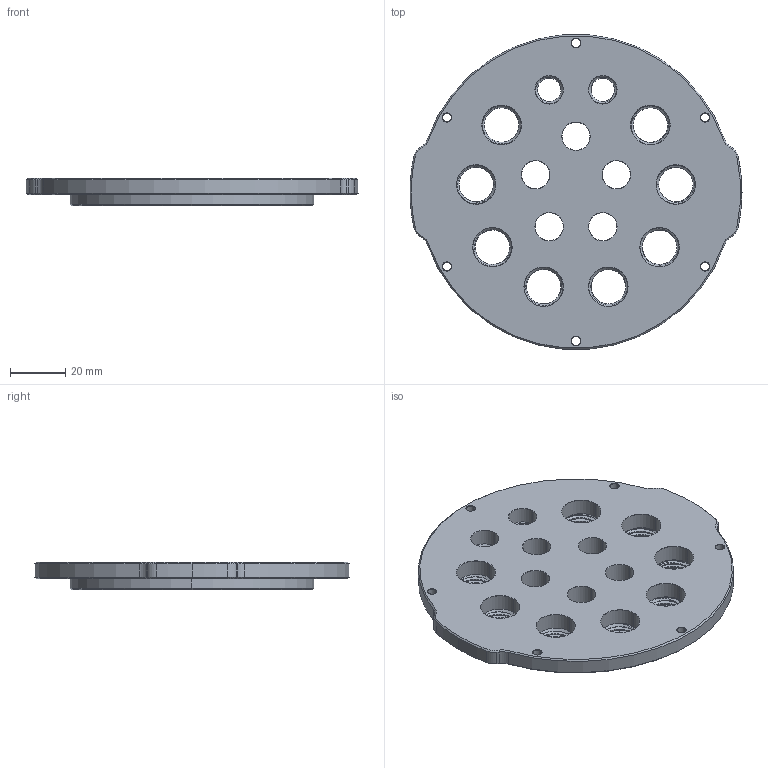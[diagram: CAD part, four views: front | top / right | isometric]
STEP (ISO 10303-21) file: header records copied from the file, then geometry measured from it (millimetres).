
FILE_DESCRIPTION (( 'STEP AP203' ), '1' );
FILE_NAME ('WTE4-END-CAP-8XM14-7XM10-R1.step', '2022-08-21T00:30:31', ( 'emillerstead@gmail.com' ), ( '' ), 'SwSTEP 2.0', 'SolidWorks 2022', '' );
FILE_SCHEMA (( 'CONFIG_CONTROL_DESIGN' ));
Length unit declared in the file: millimetre
Products named in the file (1): WTE4-END-CAP-8XM14-7XM10-R1
Bounding box: 120.3 x 113.92 x 10 mm (x, y, z)
Volume: 69042.5 mm3; surface area: 27121.8 mm2
Topology: 1 solids, 1 shells, 285 faces, 720 edges, 438 vertices
Faces by surface type: cone 139, cylinder 101, bspline 30, plane 15
Entity records: 19079 total; most frequent: CARTESIAN_POINT 12539, ORIENTED_EDGE 1440, DIRECTION 1278, EDGE_CURVE 720, AXIS2_PLACEMENT_3D 510, VERTEX_POINT 438, EDGE_LOOP 328, FACE_OUTER_BOUND 285
